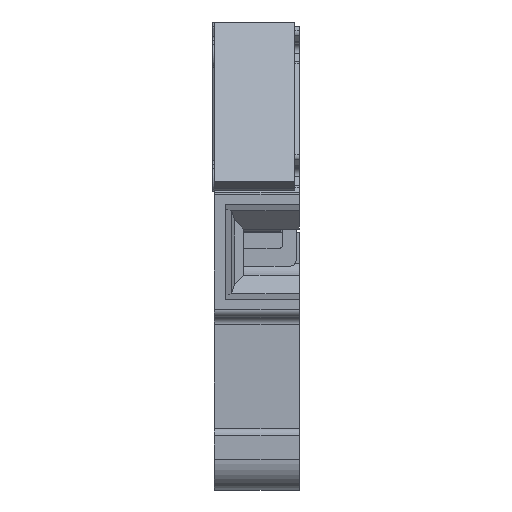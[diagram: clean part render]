
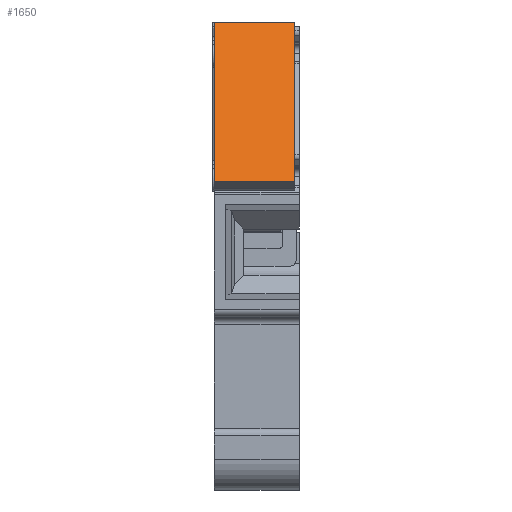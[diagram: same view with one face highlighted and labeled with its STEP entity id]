
A CAD part, front view. The second image highlights one B-rep face of the part: STEP entity #1650.
In plain terms, the highlighted planar face has unit normal (0, -0.891, 0.454).
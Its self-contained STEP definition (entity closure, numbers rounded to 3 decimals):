
#1650=ADVANCED_FACE('',(#20443),#20445,.T.);
#20443=FACE_BOUND('',#20444,.T.);
#20444=EDGE_LOOP('',(#35344,#35345,#35346,#35347));
#20445=PLANE('',#20446);
#20446=AXIS2_PLACEMENT_3D('',#20447,#20448,#20449);
#20447=CARTESIAN_POINT('',(5.2,-17.247,8.943));
#20448=DIRECTION('',(0.,-0.891,0.454));
#20449=DIRECTION('',(0.,0.454,0.891));
#35344=ORIENTED_EDGE('',*,*,#47206,.T.);
#35345=ORIENTED_EDGE('',*,*,#47207,.T.);
#35346=ORIENTED_EDGE('',*,*,#46760,.F.);
#35347=ORIENTED_EDGE('',*,*,#47205,.F.);
#46760=EDGE_CURVE('',#53138,#53140,#53141,.T.);
#47205=EDGE_CURVE('',#53882,#53138,#53884,.T.);
#47206=EDGE_CURVE('',#53882,#53885,#53886,.T.);
#47207=EDGE_CURVE('',#53885,#53140,#53887,.T.);
#53138=VERTEX_POINT('',#64270);
#53140=VERTEX_POINT('',#64274);
#53141=LINE('',#64275,#64276);
#53882=VERTEX_POINT('',#66000);
#53884=LINE('',#66004,#66005);
#53885=VERTEX_POINT('',#66007);
#53886=LINE('',#66008,#66009);
#53887=LINE('',#66011,#66012);
#64270=CARTESIAN_POINT('',(0.,-17.247,8.943));
#64274=CARTESIAN_POINT('',(0.,-11.981,19.278));
#64275=CARTESIAN_POINT('',(0.,-17.247,8.943));
#64276=VECTOR('',#64277,1.);
#64277=DIRECTION('',(0.,0.454,0.891));
#66000=CARTESIAN_POINT('',(5.2,-17.247,8.943));
#66004=CARTESIAN_POINT('',(5.2,-17.247,8.943));
#66005=VECTOR('',#66006,1.);
#66006=DIRECTION('',(-1.,0.,0.));
#66007=CARTESIAN_POINT('',(5.2,-11.981,19.278));
#66008=CARTESIAN_POINT('',(5.2,-17.247,8.943));
#66009=VECTOR('',#66010,1.);
#66010=DIRECTION('',(0.,0.454,0.891));
#66011=CARTESIAN_POINT('',(5.2,-11.981,19.278));
#66012=VECTOR('',#66013,1.);
#66013=DIRECTION('',(-1.,0.,0.));
